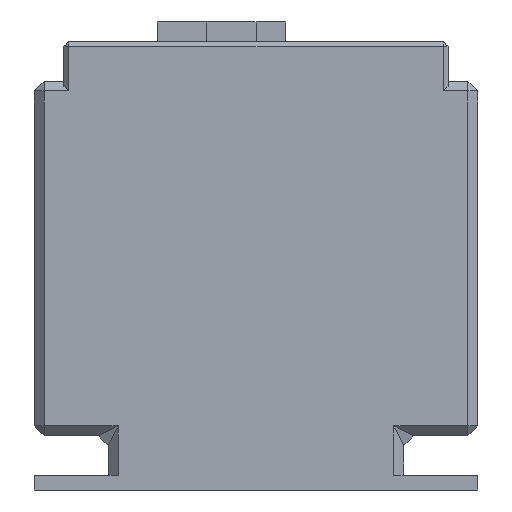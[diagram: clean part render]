
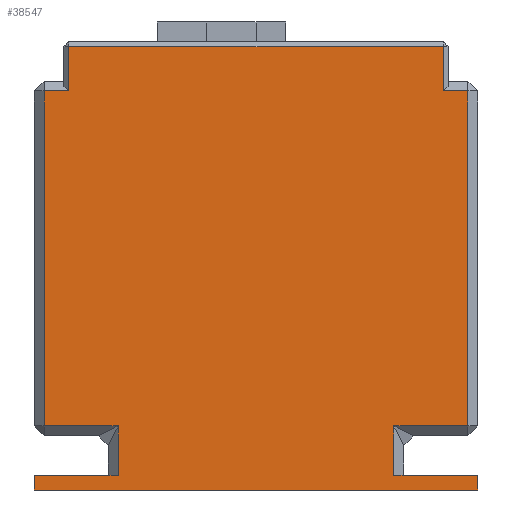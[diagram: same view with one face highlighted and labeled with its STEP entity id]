
A CAD part, left-side view. The second image highlights one B-rep face of the part: STEP entity #38547.
In plain terms, the highlighted planar face has unit normal (-1, 0, 0).
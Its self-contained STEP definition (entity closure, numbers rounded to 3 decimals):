
#4231=FACE_OUTER_BOUND('',#6545,.T.);
#6545=EDGE_LOOP('',(#32197,#32198,#32199,#32200,#32201,#32202,#32203,#32204,
#32205,#32206,#32207,#32208,#32209,#32210,#32211,#32212));
#10126=LINE('',#65022,#13974);
#10128=LINE('',#65025,#13976);
#10132=LINE('',#65035,#13980);
#10160=LINE('',#65093,#14008);
#10162=LINE('',#65096,#14010);
#10167=LINE('',#65104,#14015);
#10176=LINE('',#65120,#14024);
#10208=LINE('',#65187,#14056);
#10211=LINE('',#65192,#14059);
#10215=LINE('',#65198,#14063);
#10219=LINE('',#65206,#14067);
#10223=LINE('',#65214,#14071);
#10224=LINE('',#65216,#14072);
#10225=LINE('',#65218,#14073);
#10226=LINE('',#65220,#14074);
#10227=LINE('',#65221,#14075);
#13974=VECTOR('',#46706,10.);
#13976=VECTOR('',#46710,10.);
#13980=VECTOR('',#46720,10.);
#14008=VECTOR('',#46770,10.);
#14010=VECTOR('',#46774,10.);
#14015=VECTOR('',#46785,10.);
#14024=VECTOR('',#46800,10.);
#14056=VECTOR('',#46862,10.);
#14059=VECTOR('',#46869,10.);
#14063=VECTOR('',#46875,10.);
#14067=VECTOR('',#46883,10.);
#14071=VECTOR('',#46891,10.);
#14072=VECTOR('',#46892,10.);
#14073=VECTOR('',#46893,10.);
#14074=VECTOR('',#46894,10.);
#14075=VECTOR('',#46895,10.);
#17526=VERTEX_POINT('',#65006);
#17528=VERTEX_POINT('',#65015);
#17530=VERTEX_POINT('',#65020);
#17532=VERTEX_POINT('',#65031);
#17539=VERTEX_POINT('',#65048);
#17544=VERTEX_POINT('',#65061);
#17548=VERTEX_POINT('',#65072);
#17555=VERTEX_POINT('',#65116);
#17568=VERTEX_POINT('',#65162);
#17572=VERTEX_POINT('',#65170);
#17574=VERTEX_POINT('',#65179);
#17579=VERTEX_POINT('',#65204);
#17581=VERTEX_POINT('',#65213);
#17582=VERTEX_POINT('',#65215);
#17583=VERTEX_POINT('',#65217);
#17584=VERTEX_POINT('',#65219);
#22555=EDGE_CURVE('',#17530,#17528,#10126,.T.);
#22557=EDGE_CURVE('',#17528,#17526,#10128,.T.);
#22562=EDGE_CURVE('',#17526,#17532,#10132,.T.);
#22590=EDGE_CURVE('',#17532,#17548,#10160,.T.);
#22592=EDGE_CURVE('',#17548,#17544,#10162,.T.);
#22597=EDGE_CURVE('',#17544,#17539,#10167,.T.);
#22606=EDGE_CURVE('',#17539,#17555,#10176,.T.);
#22638=EDGE_CURVE('',#17574,#17572,#10208,.T.);
#22641=EDGE_CURVE('',#17568,#17574,#10211,.T.);
#22645=EDGE_CURVE('',#17572,#17530,#10215,.T.);
#22649=EDGE_CURVE('',#17579,#17568,#10219,.T.);
#22653=EDGE_CURVE('',#17579,#17581,#10223,.T.);
#22654=EDGE_CURVE('',#17582,#17581,#10224,.T.);
#22655=EDGE_CURVE('',#17582,#17583,#10225,.T.);
#22656=EDGE_CURVE('',#17583,#17584,#10226,.T.);
#22657=EDGE_CURVE('',#17584,#17555,#10227,.T.);
#32197=ORIENTED_EDGE('',*,*,#22645,.F.);
#32198=ORIENTED_EDGE('',*,*,#22638,.F.);
#32199=ORIENTED_EDGE('',*,*,#22641,.F.);
#32200=ORIENTED_EDGE('',*,*,#22649,.F.);
#32201=ORIENTED_EDGE('',*,*,#22653,.T.);
#32202=ORIENTED_EDGE('',*,*,#22654,.F.);
#32203=ORIENTED_EDGE('',*,*,#22655,.T.);
#32204=ORIENTED_EDGE('',*,*,#22656,.T.);
#32205=ORIENTED_EDGE('',*,*,#22657,.T.);
#32206=ORIENTED_EDGE('',*,*,#22606,.F.);
#32207=ORIENTED_EDGE('',*,*,#22597,.F.);
#32208=ORIENTED_EDGE('',*,*,#22592,.F.);
#32209=ORIENTED_EDGE('',*,*,#22590,.F.);
#32210=ORIENTED_EDGE('',*,*,#22562,.F.);
#32211=ORIENTED_EDGE('',*,*,#22557,.F.);
#32212=ORIENTED_EDGE('',*,*,#22555,.F.);
#36475=PLANE('',#40443);
#38547=ADVANCED_FACE('',(#4231),#36475,.T.);
#40443=AXIS2_PLACEMENT_3D('',#65212,#46889,#46890);
#46706=DIRECTION('',(0.,0.,1.));
#46710=DIRECTION('',(0.,-1.,0.));
#46720=DIRECTION('',(0.,0.,-1.));
#46770=DIRECTION('',(0.,-1.,0.));
#46774=DIRECTION('',(0.,0.,-1.));
#46785=DIRECTION('',(0.,1.,0.));
#46800=DIRECTION('',(0.,0.,-1.));
#46862=DIRECTION('',(0.,0.,1.));
#46869=DIRECTION('',(0.,1.,0.));
#46875=DIRECTION('',(0.,-1.,0.));
#46883=DIRECTION('',(0.,0.,1.));
#46889=DIRECTION('center_axis',(-1.,0.,0.));
#46890=DIRECTION('ref_axis',(0.,-1.,0.));
#46891=DIRECTION('',(0.,1.,0.));
#46892=DIRECTION('',(0.,0.,1.));
#46893=DIRECTION('',(0.,-1.,0.));
#46894=DIRECTION('',(0.,0.,1.));
#46895=DIRECTION('',(0.,1.,0.));
#65006=CARTESIAN_POINT('',(0.,7.,90.));
#65015=CARTESIAN_POINT('',(0.,83.,90.));
#65020=CARTESIAN_POINT('',(0.,83.,81.));
#65022=CARTESIAN_POINT('',(0.,83.,47.5));
#65025=CARTESIAN_POINT('',(0.,67.5,90.));
#65031=CARTESIAN_POINT('',(0.,7.,81.));
#65035=CARTESIAN_POINT('',(0.,7.,47.5));
#65048=CARTESIAN_POINT('',(0.,17.,13.));
#65061=CARTESIAN_POINT('',(0.,2.,13.));
#65072=CARTESIAN_POINT('',(0.,2.,81.));
#65093=CARTESIAN_POINT('',(0.,46.756,81.));
#65096=CARTESIAN_POINT('',(0.,2.,0.));
#65104=CARTESIAN_POINT('',(0.,45.,13.));
#65116=CARTESIAN_POINT('',(0.,17.,3.));
#65120=CARTESIAN_POINT('',(0.,17.,3.5));
#65162=CARTESIAN_POINT('',(0.,73.,13.));
#65170=CARTESIAN_POINT('',(0.,88.,81.));
#65179=CARTESIAN_POINT('',(0.,88.,13.));
#65187=CARTESIAN_POINT('',(0.,88.,0.));
#65192=CARTESIAN_POINT('',(0.,90.,13.));
#65198=CARTESIAN_POINT('',(0.,88.244,81.));
#65204=CARTESIAN_POINT('',(0.,73.,3.));
#65206=CARTESIAN_POINT('',(0.,73.,3.5));
#65212=CARTESIAN_POINT('Origin',(0.,90.,0.));
#65213=CARTESIAN_POINT('',(0.,90.,3.));
#65214=CARTESIAN_POINT('',(0.,90.,3.));
#65215=CARTESIAN_POINT('',(0.,90.,0.));
#65216=CARTESIAN_POINT('',(0.,90.,0.));
#65217=CARTESIAN_POINT('',(0.,0.,0.));
#65218=CARTESIAN_POINT('',(0.,90.,0.));
#65219=CARTESIAN_POINT('',(0.,0.,3.));
#65220=CARTESIAN_POINT('',(0.,0.,0.));
#65221=CARTESIAN_POINT('',(0.,45.,3.));
